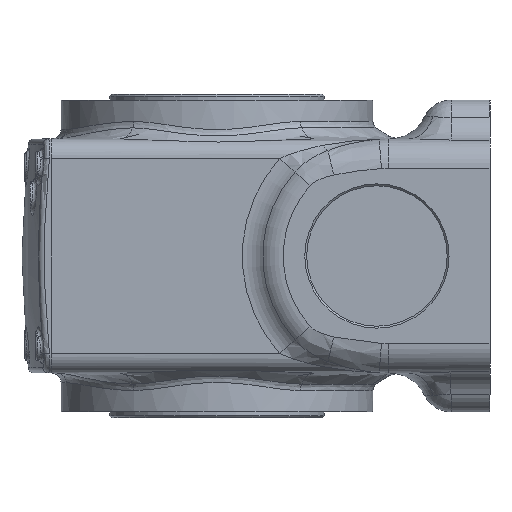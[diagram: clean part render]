
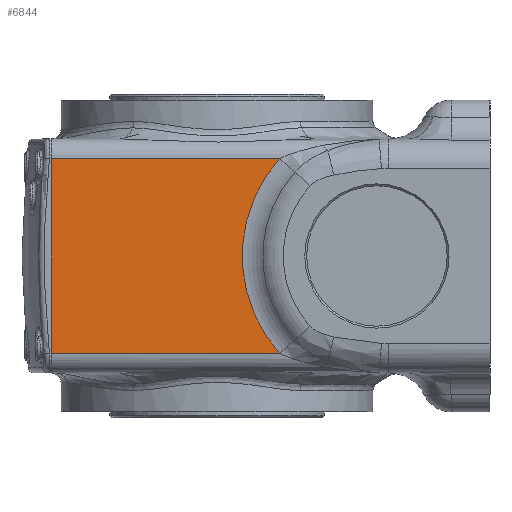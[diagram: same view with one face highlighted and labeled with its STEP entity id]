
A CAD part, left-side view. The second image highlights one B-rep face of the part: STEP entity #6844.
In plain terms, the highlighted planar face has unit normal (-1, 0, 0).
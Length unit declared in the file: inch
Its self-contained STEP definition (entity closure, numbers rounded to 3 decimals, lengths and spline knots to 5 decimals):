
#513=LINE('',#10029,#712);
#514=LINE('',#10031,#713);
#515=LINE('',#10032,#714);
#712=VECTOR('',#8202,4.61017);
#713=VECTOR('',#8203,3.93701);
#714=VECTOR('',#8204,4.61017);
#913=PLANE('',#7356);
#1232=FACE_OUTER_BOUND('',#1730,.T.);
#1730=EDGE_LOOP('',(#4420,#4421,#4422,#4423));
#2403=CIRCLE('',#7357,2.95276);
#2853=VERTEX_POINT('',#10025);
#2854=VERTEX_POINT('',#10026);
#2855=VERTEX_POINT('',#10028);
#2856=VERTEX_POINT('',#10030);
#3487=EDGE_CURVE('',#2853,#2854,#2403,.T.);
#3488=EDGE_CURVE('',#2855,#2853,#513,.T.);
#3489=EDGE_CURVE('',#2856,#2855,#514,.T.);
#3490=EDGE_CURVE('',#2854,#2856,#515,.T.);
#4420=ORIENTED_EDGE('',*,*,#3487,.F.);
#4421=ORIENTED_EDGE('',*,*,#3488,.F.);
#4422=ORIENTED_EDGE('',*,*,#3489,.F.);
#4423=ORIENTED_EDGE('',*,*,#3490,.F.);
#6844=ADVANCED_FACE('',(#1232),#913,.F.);
#7356=AXIS2_PLACEMENT_3D('',#10024,#8198,#8199);
#7357=AXIS2_PLACEMENT_3D('',#10027,#8200,#8201);
#8198=DIRECTION('center_axis',(1.,0.,0.));
#8199=DIRECTION('ref_axis',(0.,0.,1.));
#8200=DIRECTION('center_axis',(-1.,0.,0.));
#8201=DIRECTION('ref_axis',(0.,1.,0.));
#8202=DIRECTION('',(0.,-1.,0.));
#8203=DIRECTION('',(0.,0.,1.));
#8204=DIRECTION('',(0.,1.,0.));
#10024=CARTESIAN_POINT('Origin',(-4.80633,4.61237,-2.3622));
#10025=CARTESIAN_POINT('',(-4.80633,0.0022,1.9685));
#10026=CARTESIAN_POINT('',(-4.80633,0.0022,-1.9685));
#10027=CARTESIAN_POINT('Origin',(-4.80633,-2.19866,0.));
#10028=CARTESIAN_POINT('',(-4.80633,4.61237,1.9685));
#10029=CARTESIAN_POINT('',(-4.80633,2.3978,1.9685));
#10030=CARTESIAN_POINT('',(-4.80633,4.61237,-1.9685));
#10031=CARTESIAN_POINT('',(-4.80633,4.61237,-1.1811));
#10032=CARTESIAN_POINT('',(-4.80633,2.3978,-1.9685));
